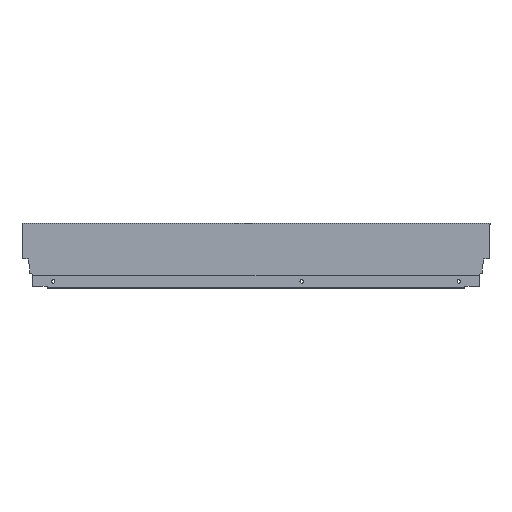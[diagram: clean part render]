
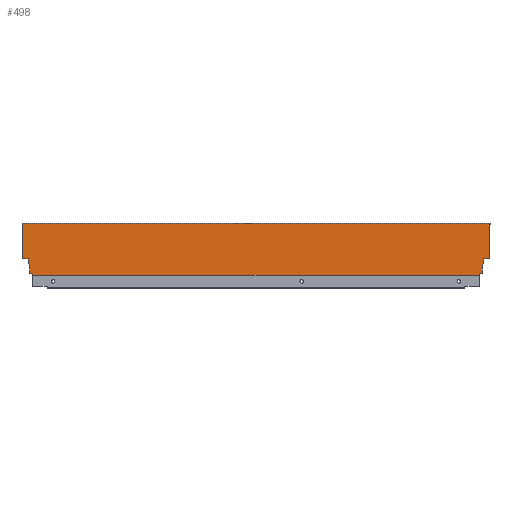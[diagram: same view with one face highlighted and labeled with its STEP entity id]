
A CAD part, top view. The second image highlights one B-rep face of the part: STEP entity #498.
In plain terms, the highlighted planar face has unit normal (0, 0, 1).
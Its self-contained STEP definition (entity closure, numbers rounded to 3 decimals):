
#1 = VERTEX_POINT ( 'NONE', #6 ) ;
#6 = CARTESIAN_POINT ( 'NONE',  ( -613., 21.2, 7.5 ) ) ;
#7 = VERTEX_POINT ( 'NONE', #801 ) ;
#11 = VERTEX_POINT ( 'NONE', #803 ) ;
#12 = VERTEX_POINT ( 'NONE', #804 ) ;
#16 = VERTEX_POINT ( 'NONE', #806 ) ;
#18 = VERTEX_POINT ( 'NONE', #808 ) ;
#20 = EDGE_CURVE ( 'NONE', #18, #766, #651, .T. ) ;
#187 = FACE_OUTER_BOUND ( 'NONE', #1424, .T. ) ;
#233 = EDGE_CURVE ( 'NONE', #744, #18, #628, .T. ) ;
#242 = EDGE_CURVE ( 'NONE', #729, #743, #593, .T. ) ;
#244 = EDGE_CURVE ( 'NONE', #753, #11, #595, .T. ) ;
#246 = EDGE_CURVE ( 'NONE', #724, #1, #590, .T. ) ;
#248 = EDGE_CURVE ( 'NONE', #748, #777, #580, .T. ) ;
#250 = EDGE_CURVE ( 'NONE', #12, #16, #581, .T. ) ;
#251 = EDGE_CURVE ( 'NONE', #16, #724, #576, .T. ) ;
#252 = EDGE_CURVE ( 'NONE', #729, #7, #577, .T. ) ;
#254 = EDGE_CURVE ( 'NONE', #727, #743, #568, .T. ) ;
#255 = EDGE_CURVE ( 'NONE', #753, #748, #566, .T. ) ;
#256 = EDGE_CURVE ( 'NONE', #769, #727, #578, .T. ) ;
#257 = EDGE_CURVE ( 'NONE', #11, #1, #573, .T. ) ;
#259 = EDGE_CURVE ( 'NONE', #7, #12, #571, .T. ) ;
#260 = EDGE_CURVE ( 'NONE', #766, #772, #563, .T. ) ;
#261 = EDGE_CURVE ( 'NONE', #772, #769, #561, .T. ) ;
#288 = EDGE_CURVE ( 'NONE', #786, #744, #524, .T. ) ;
#290 = EDGE_CURVE ( 'NONE', #777, #786, #519, .T. ) ;
#433 = AXIS2_PLACEMENT_3D ( 'NONE', #1257, #1263, #1264 ) ;
#498 = ADVANCED_FACE ( 'NONE', ( #187 ), #1254, .T. ) ;
#518 = VECTOR ( 'NONE', #1006, 1000. ) ;
#519 = LINE ( 'NONE', #1005, #518 ) ;
#521 = VECTOR ( 'NONE', #1001, 1000. ) ;
#524 = LINE ( 'NONE', #1000, #521 ) ;
#554 = VECTOR ( 'NONE', #920, 1000. ) ;
#556 = VECTOR ( 'NONE', #917, 1000. ) ;
#558 = VECTOR ( 'NONE', #915, 1000. ) ;
#561 = LINE ( 'NONE', #916, #554 ) ;
#562 = VECTOR ( 'NONE', #911, 1000. ) ;
#563 = LINE ( 'NONE', #914, #556 ) ;
#564 = VECTOR ( 'NONE', #909, 1000. ) ;
#565 = VECTOR ( 'NONE', #907, 1000. ) ;
#566 = LINE ( 'NONE', #906, #565 ) ;
#567 = VECTOR ( 'NONE', #905, 1000. ) ;
#568 = LINE ( 'NONE', #904, #567 ) ;
#571 = LINE ( 'NONE', #910, #558 ) ;
#572 = VECTOR ( 'NONE', #901, 1000. ) ;
#573 = LINE ( 'NONE', #908, #562 ) ;
#574 = VECTOR ( 'NONE', #899, 1000. ) ;
#576 = LINE ( 'NONE', #890, #574 ) ;
#577 = LINE ( 'NONE', #898, #572 ) ;
#578 = LINE ( 'NONE', #900, #564 ) ;
#579 = VECTOR ( 'NONE', #892, 1000. ) ;
#580 = LINE ( 'NONE', #891, #579 ) ;
#581 = LINE ( 'NONE', #896, #583 ) ;
#583 = VECTOR ( 'NONE', #897, 1000. ) ;
#584 = VECTOR ( 'NONE', #888, 1000. ) ;
#587 = VECTOR ( 'NONE', #884, 1000. ) ;
#590 = LINE ( 'NONE', #883, #584 ) ;
#591 = VECTOR ( 'NONE', #880, 1000. ) ;
#593 = LINE ( 'NONE', #872, #591 ) ;
#595 = LINE ( 'NONE', #881, #587 ) ;
#620 = VECTOR ( 'NONE', #861, 1000. ) ;
#628 = LINE ( 'NONE', #857, #620 ) ;
#650 = VECTOR ( 'NONE', #811, 1000. ) ;
#651 = LINE ( 'NONE', #810, #650 ) ;
#724 = VERTEX_POINT ( 'NONE', #1310 ) ;
#727 = VERTEX_POINT ( 'NONE', #1320 ) ;
#729 = VERTEX_POINT ( 'NONE', #1322 ) ;
#743 = VERTEX_POINT ( 'NONE', #1336 ) ;
#744 = VERTEX_POINT ( 'NONE', #1337 ) ;
#748 = VERTEX_POINT ( 'NONE', #1341 ) ;
#753 = VERTEX_POINT ( 'NONE', #1346 ) ;
#766 = VERTEX_POINT ( 'NONE', #1359 ) ;
#769 = VERTEX_POINT ( 'NONE', #1362 ) ;
#772 = VERTEX_POINT ( 'NONE', #1365 ) ;
#777 = VERTEX_POINT ( 'NONE', #1370 ) ;
#786 = VERTEX_POINT ( 'NONE', #1379 ) ;
#801 = CARTESIAN_POINT ( 'NONE',  ( -599.996, 1.146, 7.5 ) ) ;
#803 = CARTESIAN_POINT ( 'NONE',  ( -613., 66.5, 7.5 ) ) ;
#804 = CARTESIAN_POINT ( 'NONE',  ( -604.1, 2.64, 7.5 ) ) ;
#806 = CARTESIAN_POINT ( 'NONE',  ( -604.1, 10.765, 7.5 ) ) ;
#808 = CARTESIAN_POINT ( 'NONE',  ( 0., 21.2, 7.5 ) ) ;
#810 = CARTESIAN_POINT ( 'NONE',  ( 0., 21.2, 7.5 ) ) ;
#811 = DIRECTION ( 'NONE',  ( -1., 0., 0. ) ) ;
#857 = CARTESIAN_POINT ( 'NONE',  ( 0., 0., 7.5 ) ) ;
#861 = DIRECTION ( 'NONE',  ( 0., -1., 0. ) ) ;
#872 = CARTESIAN_POINT ( 'NONE',  ( -613., 0., 7.5 ) ) ;
#880 = DIRECTION ( 'NONE',  ( 1., 0., 0. ) ) ;
#881 = CARTESIAN_POINT ( 'NONE',  ( -614., 66.5, 7.5 ) ) ;
#883 = CARTESIAN_POINT ( 'NONE',  ( -618., 21.2, 7.5 ) ) ;
#884 = DIRECTION ( 'NONE',  ( 1., 0., 0. ) ) ;
#888 = DIRECTION ( 'NONE',  ( -1., 0., 0. ) ) ;
#890 = CARTESIAN_POINT ( 'NONE',  ( -605.94, 21.2, 7.5 ) ) ;
#891 = CARTESIAN_POINT ( 'NONE',  ( -613., 68., 7.5 ) ) ;
#892 = DIRECTION ( 'NONE',  ( 1., 0., 0. ) ) ;
#896 = CARTESIAN_POINT ( 'NONE',  ( -604.1, 10.765, 7.5 ) ) ;
#897 = DIRECTION ( 'NONE',  ( 0., 1., 0. ) ) ;
#898 = CARTESIAN_POINT ( 'NONE',  ( -599.996, 1.146, 7.5 ) ) ;
#899 = DIRECTION ( 'NONE',  ( -0.174, 0.985, 0. ) ) ;
#900 = CARTESIAN_POINT ( 'NONE',  ( -8.9, 2.64, 7.5 ) ) ;
#901 = DIRECTION ( 'NONE',  ( 0., 1., 0. ) ) ;
#904 = CARTESIAN_POINT ( 'NONE',  ( -13.004, 1.146, 7.5 ) ) ;
#905 = DIRECTION ( 'NONE',  ( 0., -1., 0. ) ) ;
#906 = CARTESIAN_POINT ( 'NONE',  ( -614., 66.5, 7.5 ) ) ;
#907 = DIRECTION ( 'NONE',  ( 0., 1., 0. ) ) ;
#908 = CARTESIAN_POINT ( 'NONE',  ( -613., 0., 7.5 ) ) ;
#909 = DIRECTION ( 'NONE',  ( -0.94, -0.342, 0. ) ) ;
#910 = CARTESIAN_POINT ( 'NONE',  ( -604.1, 2.64, 7.5 ) ) ;
#911 = DIRECTION ( 'NONE',  ( 0., -1., 0. ) ) ;
#914 = CARTESIAN_POINT ( 'NONE',  ( -7.06, 21.2, 7.5 ) ) ;
#915 = DIRECTION ( 'NONE',  ( -0.94, 0.342, 0. ) ) ;
#916 = CARTESIAN_POINT ( 'NONE',  ( -8.9, 10.765, 7.5 ) ) ;
#917 = DIRECTION ( 'NONE',  ( -0.174, -0.985, 0. ) ) ;
#920 = DIRECTION ( 'NONE',  ( 0., -1., 0. ) ) ;
#1000 = CARTESIAN_POINT ( 'NONE',  ( 1., 66.5, 7.5 ) ) ;
#1001 = DIRECTION ( 'NONE',  ( -1., 0., 0. ) ) ;
#1005 = CARTESIAN_POINT ( 'NONE',  ( 1., 68., 7.5 ) ) ;
#1006 = DIRECTION ( 'NONE',  ( 0., -1., 0. ) ) ;
#1254 = PLANE ( 'NONE',  #433 ) ;
#1257 = CARTESIAN_POINT ( 'NONE',  ( -613., 0., 7.5 ) ) ;
#1263 = DIRECTION ( 'NONE',  ( 0., 0., 1. ) ) ;
#1264 = DIRECTION ( 'NONE',  ( 1., 0., 0. ) ) ;
#1310 = CARTESIAN_POINT ( 'NONE',  ( -605.94, 21.2, 7.5 ) ) ;
#1320 = CARTESIAN_POINT ( 'NONE',  ( -13.004, 1.146, 7.5 ) ) ;
#1322 = CARTESIAN_POINT ( 'NONE',  ( -599.996, 0., 7.5 ) ) ;
#1336 = CARTESIAN_POINT ( 'NONE',  ( -13.004, 0., 7.5 ) ) ;
#1337 = CARTESIAN_POINT ( 'NONE',  ( 0., 66.5, 7.5 ) ) ;
#1341 = CARTESIAN_POINT ( 'NONE',  ( -614., 68., 7.5 ) ) ;
#1346 = CARTESIAN_POINT ( 'NONE',  ( -614., 66.5, 7.5 ) ) ;
#1359 = CARTESIAN_POINT ( 'NONE',  ( -7.06, 21.2, 7.5 ) ) ;
#1362 = CARTESIAN_POINT ( 'NONE',  ( -8.9, 2.64, 7.5 ) ) ;
#1365 = CARTESIAN_POINT ( 'NONE',  ( -8.9, 10.765, 7.5 ) ) ;
#1370 = CARTESIAN_POINT ( 'NONE',  ( 1., 68., 7.5 ) ) ;
#1379 = CARTESIAN_POINT ( 'NONE',  ( 1., 66.5, 7.5 ) ) ;
#1414 = ORIENTED_EDGE ( 'NONE', *, *, #255, .F. ) ;
#1415 = ORIENTED_EDGE ( 'NONE', *, *, #248, .F. ) ;
#1416 = ORIENTED_EDGE ( 'NONE', *, *, #246, .F. ) ;
#1417 = ORIENTED_EDGE ( 'NONE', *, *, #251, .F. ) ;
#1424 = EDGE_LOOP ( 'NONE', ( #1415, #1414, #1455, #1492, #1416, #1417, #1445, #1464, #1465, #1485, #1457, #1458, #1484, #1470, #1446, #1480, #1487, #1469 ) ) ;
#1445 = ORIENTED_EDGE ( 'NONE', *, *, #250, .F. ) ;
#1446 = ORIENTED_EDGE ( 'NONE', *, *, #20, .F. ) ;
#1455 = ORIENTED_EDGE ( 'NONE', *, *, #244, .T. ) ;
#1457 = ORIENTED_EDGE ( 'NONE', *, *, #254, .F. ) ;
#1458 = ORIENTED_EDGE ( 'NONE', *, *, #256, .F. ) ;
#1464 = ORIENTED_EDGE ( 'NONE', *, *, #259, .F. ) ;
#1465 = ORIENTED_EDGE ( 'NONE', *, *, #252, .F. ) ;
#1469 = ORIENTED_EDGE ( 'NONE', *, *, #290, .F. ) ;
#1470 = ORIENTED_EDGE ( 'NONE', *, *, #260, .F. ) ;
#1480 = ORIENTED_EDGE ( 'NONE', *, *, #233, .F. ) ;
#1484 = ORIENTED_EDGE ( 'NONE', *, *, #261, .F. ) ;
#1485 = ORIENTED_EDGE ( 'NONE', *, *, #242, .T. ) ;
#1487 = ORIENTED_EDGE ( 'NONE', *, *, #288, .F. ) ;
#1492 = ORIENTED_EDGE ( 'NONE', *, *, #257, .T. ) ;
